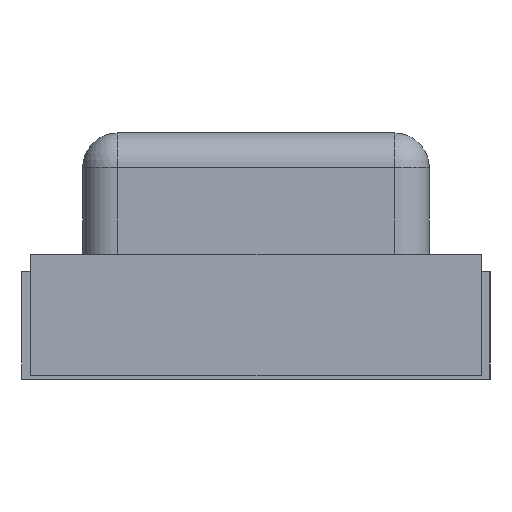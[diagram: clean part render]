
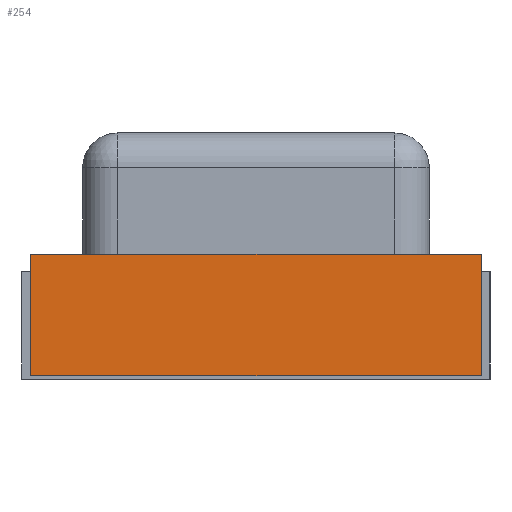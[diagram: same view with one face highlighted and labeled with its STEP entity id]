
A CAD part, left-side view. The second image highlights one B-rep face of the part: STEP entity #254.
In plain terms, the highlighted planar face has unit normal (-1, 0, 0).
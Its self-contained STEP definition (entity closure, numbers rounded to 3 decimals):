
#3 = DIRECTION ( 'NONE',  ( 0., 0., -1. ) ) ;
#24 = EDGE_LOOP ( 'NONE', ( #1113, #43, #722, #729 ) ) ;
#43 = ORIENTED_EDGE ( 'NONE', *, *, #432, .F. ) ;
#103 = DIRECTION ( 'NONE',  ( 0., 0., -1. ) ) ;
#138 = CARTESIAN_POINT ( 'NONE',  ( -1.6, 0.65, 0.35 ) ) ;
#177 = CARTESIAN_POINT ( 'NONE',  ( -1.6, 0.65, 0. ) ) ;
#217 = LINE ( 'NONE', #582, #1398 ) ;
#254 = ADVANCED_FACE ( 'NONE', ( #624 ), #277, .F. ) ;
#276 = CARTESIAN_POINT ( 'NONE',  ( -1.6, 0.65, 0. ) ) ;
#277 = PLANE ( 'NONE',  #446 ) ;
#384 = CARTESIAN_POINT ( 'NONE',  ( -1.6, 0.65, 0.35 ) ) ;
#397 = CARTESIAN_POINT ( 'NONE',  ( -1.6, -0.65, 0.35 ) ) ;
#432 = EDGE_CURVE ( 'NONE', #1019, #686, #1253, .T. ) ;
#444 = CARTESIAN_POINT ( 'NONE',  ( -1.6, -0.65, 0. ) ) ;
#446 = AXIS2_PLACEMENT_3D ( 'NONE', #384, #734, #1402 ) ;
#534 = EDGE_CURVE ( 'NONE', #578, #1019, #1274, .T. ) ;
#578 = VERTEX_POINT ( 'NONE', #1043 ) ;
#582 = CARTESIAN_POINT ( 'NONE',  ( -1.6, 0.65, 0.35 ) ) ;
#592 = DIRECTION ( 'NONE',  ( 0., -1., 0. ) ) ;
#623 = DIRECTION ( 'NONE',  ( 0., -1., 0. ) ) ;
#624 = FACE_OUTER_BOUND ( 'NONE', #24, .T. ) ;
#686 = VERTEX_POINT ( 'NONE', #444 ) ;
#722 = ORIENTED_EDGE ( 'NONE', *, *, #534, .F. ) ;
#729 = ORIENTED_EDGE ( 'NONE', *, *, #784, .T. ) ;
#734 = DIRECTION ( 'NONE',  ( 1., 0., 0. ) ) ;
#784 = EDGE_CURVE ( 'NONE', #578, #959, #217, .T. ) ;
#846 = LINE ( 'NONE', #177, #929 ) ;
#855 = VECTOR ( 'NONE', #592, 1000. ) ;
#929 = VECTOR ( 'NONE', #623, 1000. ) ;
#931 = CARTESIAN_POINT ( 'NONE',  ( -1.6, -0.65, 0.35 ) ) ;
#959 = VERTEX_POINT ( 'NONE', #276 ) ;
#993 = EDGE_CURVE ( 'NONE', #959, #686, #846, .T. ) ;
#1019 = VERTEX_POINT ( 'NONE', #397 ) ;
#1043 = CARTESIAN_POINT ( 'NONE',  ( -1.6, 0.65, 0.35 ) ) ;
#1113 = ORIENTED_EDGE ( 'NONE', *, *, #993, .T. ) ;
#1253 = LINE ( 'NONE', #931, #1373 ) ;
#1274 = LINE ( 'NONE', #138, #855 ) ;
#1373 = VECTOR ( 'NONE', #3, 1000. ) ;
#1398 = VECTOR ( 'NONE', #103, 1000. ) ;
#1402 = DIRECTION ( 'NONE',  ( 0., 1., 0. ) ) ;
